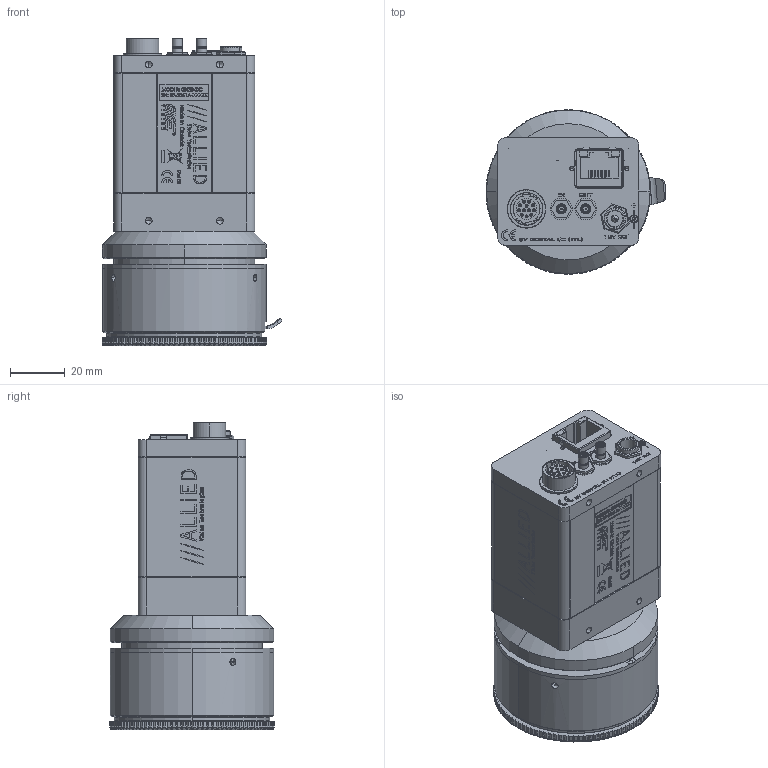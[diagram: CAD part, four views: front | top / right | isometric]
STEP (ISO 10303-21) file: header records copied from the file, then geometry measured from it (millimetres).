
FILE_DESCRIPTION (( 'STEP AP214' ), '1' );
FILE_NAME ('GE2040C FMOUNT.STEP', '2013-07-31T21:56:41', ( '' ), ( '' ), 'SwSTEP 2.0', 'SolidWorks 2013', '' );
FILE_SCHEMA (( 'AUTOMOTIVE_DESIGN' ));
Length unit declared in the file: millimetre
Products named in the file (47): 100000AA-CV SMB GROUNDING ASSEMBLY; 140007-screw socket head cap #4-40x2; 270006-JUMPER WIRE MODIFIED; 100114A-FMOUNT FRONT ASSY_REV B; 140001-AMPHENOL 903-10409-1; 140036 NIKON BF-1A FMOUNT CAP; 140034-SWITCHCRAFT P10149 WITH WIRE; 110052A-FMOUNT ADAPTER; 270006-JUMPER WIRE 18MM LONG; 100137A - GE CAMERA BACK ASSEMBLY - for GE2040; 110112A-TEFLON INSERT 0.125IN DIA 0.57IN LENGTH; 140034-SWITCHCRAFT P10149; 140002-KEYSTONE 349; 200031B-A GE INTERFACE PCB ASSY; 140035-NIKON 54341 TAB; 140032-SCREW FLAT HEAD M3x6 SS; 260029 BELFUSE 0826-1C1T-23; 140035-NIKON 54341 SPRING; 110055AC-FMOUNT BASE; 140015-screw pan head phillips 4-40 x 0.1875; 140035-NIKON 54341 MAIN RING; 440001-IR CUT FILTER 30MM DIA; 110113A-FMOUNT ADAPTER PLATE; 740048A-A GE2040C LABEL PRINT; 100051B - GE BACKPLATE ASSY; 140035-NIKON 54341 TENSION RING; 100111A - GE2040C FRONT ASSY FMOUNT; 260014-SWITCHCRAFT PC712A; 140035-NIKON 54341 SCREW; 110051AA-GE2040 DUST SHIELD GASKET; 260010-HIROSE HR10A-10R-12SB; 140068-SCREW FLAT HEAD M2x4 SS; 110041A-GE2040 FRONT PLATE; 110033B-C GE BACK PLATE; 140033-SCREW SET M3x3 SS; 220087-KODAK KAI-4021CM; 260010-HIROSE HR10A-10R-12SB WASHER; KODAK KAI-4021M WINDOW; 260009-AMPHENOL 903-406J-51R; GE2040C FMOUNT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
Assembly tree (71 placements, depth 5):
  GE2040C FMOUNT
    100114A-FMOUNT FRONT ASSY_REV B
      140033-SCREW SET M3x3 SS  x3
      140068-SCREW FLAT HEAD M2x4 SS  x3
      140035-NIKON 54341 SCREW  x3
      140035-NIKON 54341 TENSION RING
      110113A-FMOUNT ADAPTER PLATE
      140035-NIKON 54341 MAIN RING
      140035-NIKON 54341 SPRING
      140035-NIKON 54341 TAB
      110112A-TEFLON INSERT 0.125IN DIA 0.57IN LENGTH  x3
      110052A-FMOUNT ADAPTER
      140036 NIKON BF-1A FMOUNT CAP
    140007-screw socket head cap #4-40x2  x4
    110036B GE COVER EXTRUDED SHORT WITH LOGO_Finished
    740031B-GE SERIES LABEL
    140008-washer spring lock #4  x4
    100111A - GE2040C FRONT ASSY FMOUNT
      220087-KODAK KAI-4021CM
        KODAK KAI-4021M BODY
        KODAK KAI-4021M WINDOW
      110041A-GE2040 FRONT PLATE
      110051AA-GE2040 DUST SHIELD GASKET
    740048A-A GE2040C LABEL PRINT
    440001-IR CUT FILTER 30MM DIA
    110055AC-FMOUNT BASE
    140032-SCREW FLAT HEAD M3x6 SS  x4
    100137A - GE CAMERA BACK ASSEMBLY - for GE2040
      140008-washer spring lock #4  x2
      100051B - GE BACKPLATE ASSY
        140002-KEYSTONE 349  x4
        140034-SWITCHCRAFT P10149 WITH WIRE
          140034-SWITCHCRAFT P10149
          270006-JUMPER WIRE 18MM LONG
        100000AA-CV SMB GROUNDING ASSEMBLY  x2
          140001-AMPHENOL 903-10409-1
          270006-JUMPER WIRE MODIFIED
        260010-HIROSE HR10A-10R-12SB NUT
        260014-SWITCHCRAFT PC712A NUT
        140000-AMPHENOL 903-10408-1  x2
        260009-AMPHENOL 903-406J-51R  x2
        260010-HIROSE HR10A-10R-12SB WASHER
        110033B-C GE BACK PLATE
        260010-HIROSE HR10A-10R-12SB
        260014-SWITCHCRAFT PC712A
      140015-screw pan head phillips 4-40 x 0.1875
      200031B-A GE INTERFACE PCB ASSY
        260029 BELFUSE 0826-1C1T-23
Bounding box: 65.61 x 59.99 x 112.16 mm (x, y, z)
Volume: 95641.5 mm3; surface area: 101254.7 mm2
Topology: 95 solids, 95 shells, 4718 faces, 12199 edges, 7980 vertices
Faces by surface type: plane 2752, bspline 910, cylinder 851, cone 205
Entity records: 215807 total; most frequent: CARTESIAN_POINT 65688, ORIENTED_EDGE 22314, DIRECTION 17870, EDGE_CURVE 11157, LINE 7542, VECTOR 7542, VERTEX_POINT 7342, AXIS2_PLACEMENT_3D 5164
